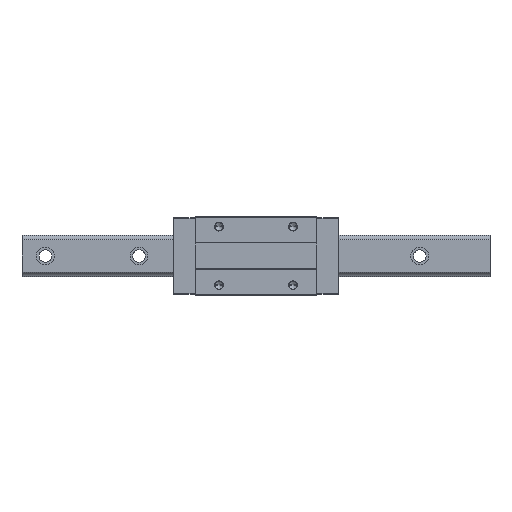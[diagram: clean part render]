
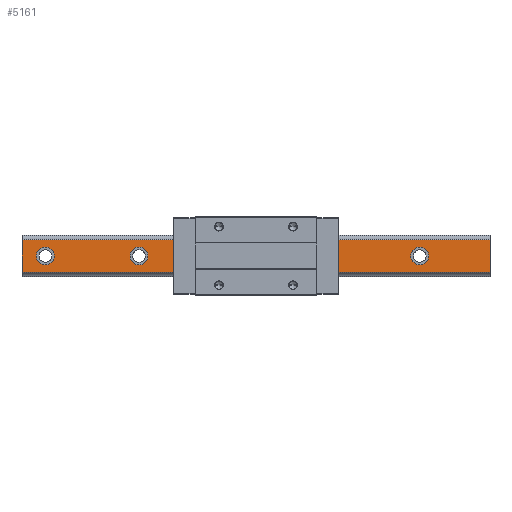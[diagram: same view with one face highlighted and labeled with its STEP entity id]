
A CAD part, top view. The second image highlights one B-rep face of the part: STEP entity #5161.
In plain terms, the highlighted planar face has unit normal (0, 0, 1).
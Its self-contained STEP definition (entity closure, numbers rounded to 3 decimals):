
#3 = CARTESIAN_POINT ( 'NONE',  ( -18.5, 0., 44. ) ) ;
#69 = EDGE_CURVE ( 'NONE', #4355, #1820, #303, .T. ) ;
#137 = FACE_BOUND ( 'NONE', #1885, .T. ) ;
#149 = DIRECTION ( 'NONE',  ( 1., 0., 0. ) ) ;
#201 = CARTESIAN_POINT ( 'NONE',  ( -150., 0., 44. ) ) ;
#219 = CARTESIAN_POINT ( 'NONE',  ( 221.5, 0., 44. ) ) ;
#285 = CARTESIAN_POINT ( 'NONE',  ( -161.5, 0., 44. ) ) ;
#303 = CIRCLE ( 'NONE', #4522, 11.5 ) ;
#341 = CARTESIAN_POINT ( 'NONE',  ( -270., 0., 44. ) ) ;
#362 = VERTEX_POINT ( 'NONE', #364 ) ;
#364 = CARTESIAN_POINT ( 'NONE',  ( -258.5, 0., 44. ) ) ;
#402 = EDGE_CURVE ( 'NONE', #5140, #4528, #3819, .T. ) ;
#419 = CARTESIAN_POINT ( 'NONE',  ( -300., 20.894, 44. ) ) ;
#553 = ORIENTED_EDGE ( 'NONE', *, *, #3455, .F. ) ;
#736 = CARTESIAN_POINT ( 'NONE',  ( -150., 0., 44. ) ) ;
#755 = DIRECTION ( 'NONE',  ( 0., -1., 0. ) ) ;
#763 = EDGE_CURVE ( 'NONE', #1805, #2935, #1348, .T. ) ;
#822 = VERTEX_POINT ( 'NONE', #419 ) ;
#848 = CARTESIAN_POINT ( 'NONE',  ( 300., 20.894, 44. ) ) ;
#913 = VERTEX_POINT ( 'NONE', #2157 ) ;
#925 = ORIENTED_EDGE ( 'NONE', *, *, #4354, .F. ) ;
#969 = FACE_BOUND ( 'NONE', #3513, .T. ) ;
#981 = DIRECTION ( 'NONE',  ( 1., 0., 0. ) ) ;
#994 = DIRECTION ( 'NONE',  ( -1., 0., 0. ) ) ;
#1054 = CARTESIAN_POINT ( 'NONE',  ( 300., -20.894, 44. ) ) ;
#1119 = DIRECTION ( 'NONE',  ( 1., 0., 0. ) ) ;
#1158 = DIRECTION ( 'NONE',  ( 1., 0., 0. ) ) ;
#1162 = DIRECTION ( 'NONE',  ( 0., 0., 1. ) ) ;
#1174 = CARTESIAN_POINT ( 'NONE',  ( 300., -20.894, 44. ) ) ;
#1181 = CARTESIAN_POINT ( 'NONE',  ( 78.5, 0., 44. ) ) ;
#1191 = ORIENTED_EDGE ( 'NONE', *, *, #2405, .F. ) ;
#1229 = EDGE_CURVE ( 'NONE', #1670, #4418, #3372, .T. ) ;
#1235 = CARTESIAN_POINT ( 'NONE',  ( 90., 0., 44. ) ) ;
#1348 = CIRCLE ( 'NONE', #5313, 11.5 ) ;
#1542 = ORIENTED_EDGE ( 'NONE', *, *, #763, .F. ) ;
#1552 = ORIENTED_EDGE ( 'NONE', *, *, #4014, .F. ) ;
#1567 = DIRECTION ( 'NONE',  ( 0., 0., 1. ) ) ;
#1584 = CARTESIAN_POINT ( 'NONE',  ( -30., 0., 44. ) ) ;
#1590 = VECTOR ( 'NONE', #994, 1000. ) ;
#1670 = VERTEX_POINT ( 'NONE', #3048 ) ;
#1760 = CIRCLE ( 'NONE', #2116, 11.5 ) ;
#1769 = DIRECTION ( 'NONE',  ( 0., -1., 0. ) ) ;
#1776 = CARTESIAN_POINT ( 'NONE',  ( 101.5, 0., 44. ) ) ;
#1805 = VERTEX_POINT ( 'NONE', #2709 ) ;
#1814 = CARTESIAN_POINT ( 'NONE',  ( 300., -20.894, 44. ) ) ;
#1820 = VERTEX_POINT ( 'NONE', #1776 ) ;
#1852 = VECTOR ( 'NONE', #1769, 1000. ) ;
#1863 = DIRECTION ( 'NONE',  ( 0., 0., 1. ) ) ;
#1872 = DIRECTION ( 'NONE',  ( -1., 0., 0. ) ) ;
#1885 = EDGE_LOOP ( 'NONE', ( #3984, #4193 ) ) ;
#1895 = EDGE_CURVE ( 'NONE', #4528, #5140, #5395, .T. ) ;
#1927 = LINE ( 'NONE', #2257, #3528 ) ;
#1984 = DIRECTION ( 'NONE',  ( 1., 0., 0. ) ) ;
#1988 = EDGE_LOOP ( 'NONE', ( #2168, #4820, #553, #2839 ) ) ;
#2001 = EDGE_LOOP ( 'NONE', ( #1191, #1542 ) ) ;
#2009 = EDGE_LOOP ( 'NONE', ( #4143, #4493 ) ) ;
#2051 = ORIENTED_EDGE ( 'NONE', *, *, #69, .F. ) ;
#2105 = CARTESIAN_POINT ( 'NONE',  ( 198.5, 0., 44. ) ) ;
#2116 = AXIS2_PLACEMENT_3D ( 'NONE', #1235, #1567, #1984 ) ;
#2129 = CARTESIAN_POINT ( 'NONE',  ( -300., -20.894, 44. ) ) ;
#2157 = CARTESIAN_POINT ( 'NONE',  ( -281.5, 0., 44. ) ) ;
#2168 = ORIENTED_EDGE ( 'NONE', *, *, #3823, .T. ) ;
#2189 = CARTESIAN_POINT ( 'NONE',  ( 210., 0., 44. ) ) ;
#2198 = DIRECTION ( 'NONE',  ( 0., 0., 1. ) ) ;
#2206 = AXIS2_PLACEMENT_3D ( 'NONE', #201, #1863, #149 ) ;
#2226 = AXIS2_PLACEMENT_3D ( 'NONE', #736, #3594, #1119 ) ;
#2257 = CARTESIAN_POINT ( 'NONE',  ( -300., -20.894, 44. ) ) ;
#2386 = EDGE_LOOP ( 'NONE', ( #3448, #2051 ) ) ;
#2405 = EDGE_CURVE ( 'NONE', #2935, #1805, #4960, .T. ) ;
#2441 = CARTESIAN_POINT ( 'NONE',  ( -30., 0., 44. ) ) ;
#2554 = AXIS2_PLACEMENT_3D ( 'NONE', #2189, #3041, #981 ) ;
#2589 = LINE ( 'NONE', #3908, #1852 ) ;
#2671 = EDGE_CURVE ( 'NONE', #4795, #4914, #4779, .T. ) ;
#2680 = EDGE_CURVE ( 'NONE', #5013, #822, #3978, .T. ) ;
#2709 = CARTESIAN_POINT ( 'NONE',  ( -41.5, 0., 44. ) ) ;
#2796 = DIRECTION ( 'NONE',  ( 0., 0., 1. ) ) ;
#2839 = ORIENTED_EDGE ( 'NONE', *, *, #2680, .T. ) ;
#2935 = VERTEX_POINT ( 'NONE', #3 ) ;
#3027 = DIRECTION ( 'NONE',  ( 1., 0., 0. ) ) ;
#3032 = EDGE_CURVE ( 'NONE', #4418, #1670, #4427, .T. ) ;
#3041 = DIRECTION ( 'NONE',  ( 0., 0., 1. ) ) ;
#3048 = CARTESIAN_POINT ( 'NONE',  ( -138.5, 0., 44. ) ) ;
#3063 = FACE_BOUND ( 'NONE', #2009, .T. ) ;
#3372 = CIRCLE ( 'NONE', #2226, 11.5 ) ;
#3380 = CARTESIAN_POINT ( 'NONE',  ( 210., 0., 44. ) ) ;
#3448 = ORIENTED_EDGE ( 'NONE', *, *, #4010, .F. ) ;
#3455 = EDGE_CURVE ( 'NONE', #5013, #4795, #2589, .T. ) ;
#3477 = FACE_BOUND ( 'NONE', #2001, .T. ) ;
#3490 = CARTESIAN_POINT ( 'NONE',  ( -270., 0., 44. ) ) ;
#3513 = EDGE_LOOP ( 'NONE', ( #925, #1552 ) ) ;
#3528 = VECTOR ( 'NONE', #3582, 1000. ) ;
#3549 = AXIS2_PLACEMENT_3D ( 'NONE', #3380, #4220, #3748 ) ;
#3582 = DIRECTION ( 'NONE',  ( 0., -1., 0. ) ) ;
#3594 = DIRECTION ( 'NONE',  ( 0., 0., 1. ) ) ;
#3702 = AXIS2_PLACEMENT_3D ( 'NONE', #2441, #1162, #4141 ) ;
#3713 = DIRECTION ( 'NONE',  ( 1., 0., 0. ) ) ;
#3748 = DIRECTION ( 'NONE',  ( 1., 0., 0. ) ) ;
#3819 = CIRCLE ( 'NONE', #3549, 11.5 ) ;
#3823 = EDGE_CURVE ( 'NONE', #822, #4914, #1927, .T. ) ;
#3908 = CARTESIAN_POINT ( 'NONE',  ( 300., -20.894, 44. ) ) ;
#3978 = LINE ( 'NONE', #4810, #4068 ) ;
#3984 = ORIENTED_EDGE ( 'NONE', *, *, #1229, .F. ) ;
#4010 = EDGE_CURVE ( 'NONE', #1820, #4355, #1760, .T. ) ;
#4014 = EDGE_CURVE ( 'NONE', #913, #362, #4155, .T. ) ;
#4016 = DIRECTION ( 'NONE',  ( 0., 0., -1. ) ) ;
#4068 = VECTOR ( 'NONE', #1872, 1000. ) ;
#4129 = DIRECTION ( 'NONE',  ( 1., 0., 0. ) ) ;
#4141 = DIRECTION ( 'NONE',  ( 1., 0., 0. ) ) ;
#4143 = ORIENTED_EDGE ( 'NONE', *, *, #402, .F. ) ;
#4155 = CIRCLE ( 'NONE', #4870, 11.5 ) ;
#4193 = ORIENTED_EDGE ( 'NONE', *, *, #3032, .F. ) ;
#4220 = DIRECTION ( 'NONE',  ( 0., 0., 1. ) ) ;
#4351 = PLANE ( 'NONE',  #5275 ) ;
#4354 = EDGE_CURVE ( 'NONE', #362, #913, #5020, .T. ) ;
#4355 = VERTEX_POINT ( 'NONE', #1181 ) ;
#4418 = VERTEX_POINT ( 'NONE', #285 ) ;
#4427 = CIRCLE ( 'NONE', #2206, 11.5 ) ;
#4465 = DIRECTION ( 'NONE',  ( 0., 0., 1. ) ) ;
#4493 = ORIENTED_EDGE ( 'NONE', *, *, #1895, .F. ) ;
#4522 = AXIS2_PLACEMENT_3D ( 'NONE', #5029, #2198, #3027 ) ;
#4528 = VERTEX_POINT ( 'NONE', #2105 ) ;
#4756 = FACE_OUTER_BOUND ( 'NONE', #1988, .T. ) ;
#4779 = LINE ( 'NONE', #1814, #1590 ) ;
#4795 = VERTEX_POINT ( 'NONE', #1174 ) ;
#4810 = CARTESIAN_POINT ( 'NONE',  ( 300., 20.894, 44. ) ) ;
#4820 = ORIENTED_EDGE ( 'NONE', *, *, #2671, .F. ) ;
#4850 = AXIS2_PLACEMENT_3D ( 'NONE', #3490, #5185, #3713 ) ;
#4870 = AXIS2_PLACEMENT_3D ( 'NONE', #341, #2796, #1158 ) ;
#4914 = VERTEX_POINT ( 'NONE', #2129 ) ;
#4960 = CIRCLE ( 'NONE', #3702, 11.5 ) ;
#5013 = VERTEX_POINT ( 'NONE', #848 ) ;
#5020 = CIRCLE ( 'NONE', #4850, 11.5 ) ;
#5029 = CARTESIAN_POINT ( 'NONE',  ( 90., 0., 44. ) ) ;
#5140 = VERTEX_POINT ( 'NONE', #219 ) ;
#5161 = ADVANCED_FACE ( 'NONE', ( #969, #137, #3477, #5173, #3063, #4756 ), #4351, .F. ) ;
#5173 = FACE_BOUND ( 'NONE', #2386, .T. ) ;
#5185 = DIRECTION ( 'NONE',  ( 0., 0., 1. ) ) ;
#5275 = AXIS2_PLACEMENT_3D ( 'NONE', #1054, #4016, #755 ) ;
#5313 = AXIS2_PLACEMENT_3D ( 'NONE', #1584, #4465, #4129 ) ;
#5395 = CIRCLE ( 'NONE', #2554, 11.5 ) ;
